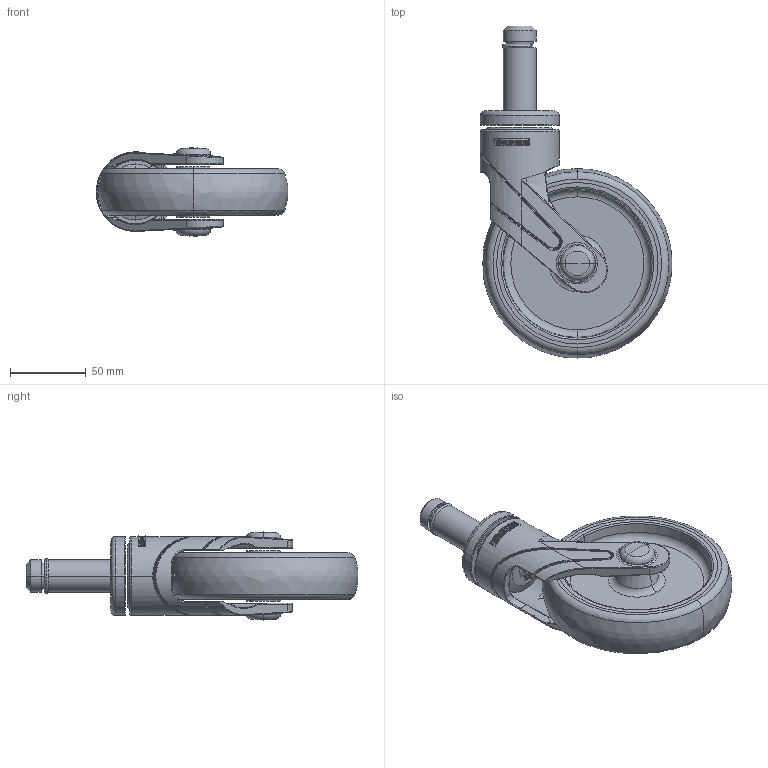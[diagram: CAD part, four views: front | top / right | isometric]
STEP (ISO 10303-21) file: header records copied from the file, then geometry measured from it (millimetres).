
FILE_DESCRIPTION((''),'2;1');
FILE_NAME('PRT0039','2025-08-13T15:09:30',('Administrator'),(''),'CREO PARAMETRIC BY PTC INC, 2022124','CREO PARAMETRIC BY PTC INC, 2022124','');
FILE_SCHEMA(('AUTOMOTIVE_DESIGN { 1 0 10303 214 1 1 1 1 }'));
Length unit declared in the file: millimetre
Products named in the file (1): PRT0039
Bounding box: 126.25 x 218.91 x 58.19 mm (x, y, z)
Surface area: 70169.6 mm2 (no closed solid volume)
Topology: 0 solids, 47 shells, 271 faces, 1557 edges, 1287 vertices
Faces by surface type: torus 69, cylinder 60, plane 59, bspline 58, cone 19, sphere 4, extrusion 2
Entity records: 22930 total; most frequent: CARTESIAN_POINT 10688, ORIENTED_EDGE 1983, DIRECTION 1688, EDGE_CURVE 1549, VERTEX_POINT 1287, B_SPLINE_CURVE_WITH_KNOTS 761, AXIS2_PLACEMENT_3D 672, CIRCLE 451
